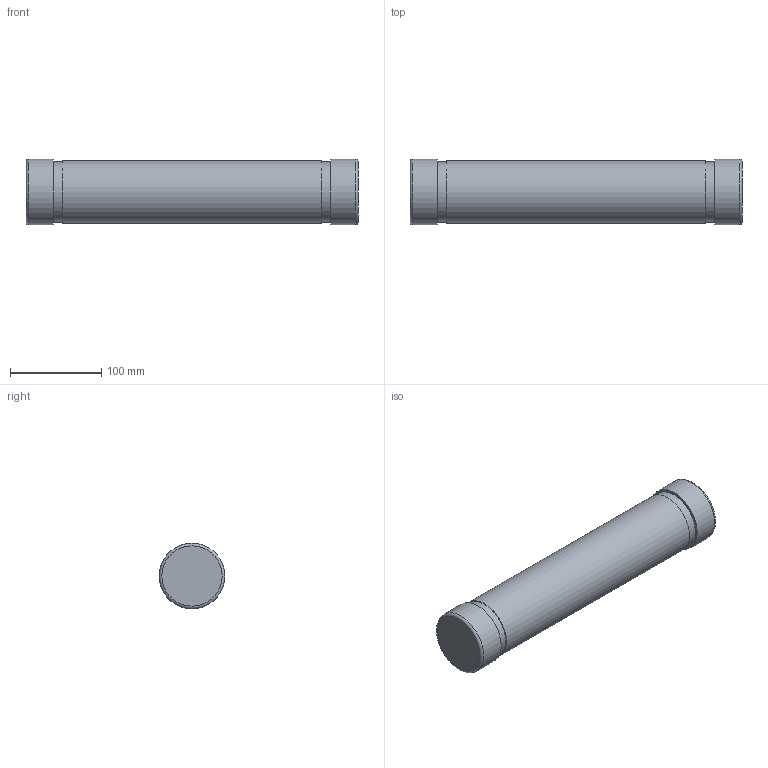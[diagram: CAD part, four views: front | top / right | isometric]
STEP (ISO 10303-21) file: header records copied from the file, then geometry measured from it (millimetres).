
FILE_DESCRIPTION (( 'STEP AP214' ), '1' );
FILE_NAME ('眈襝鍙 玾-1.2-6.STEP', '2023-03-03T10:59:07', ( '' ), ( '' ), 'SwSTEP 2.0', 'SolidWorks 2018', '' );
FILE_SCHEMA (( 'AUTOMOTIVE_DESIGN' ));
Length unit declared in the file: millimetre
Products named in the file (1): 眈襝鍙 玾-1.2-6
Bounding box: 364 x 72 x 72 mm (x, y, z)
Volume: 656030.7 mm3; surface area: 146568 mm2
Topology: 1 solids, 2 shells, 16 faces, 23 edges, 15 vertices
Faces by surface type: plane 8, cylinder 6, torus 2
Full cylindrical faces by diameter (mm): 50 x1, 66 x2, 68 x1, 72 x2
Entity records: 336 total; most frequent: DIRECTION 62, CARTESIAN_POINT 45, AXIS2_PLACEMENT_3D 31, ORIENTED_EDGE 28, EDGE_LOOP 28, FACE_OUTER_BOUND 24, ADVANCED_FACE 16, VERTEX_POINT 14
